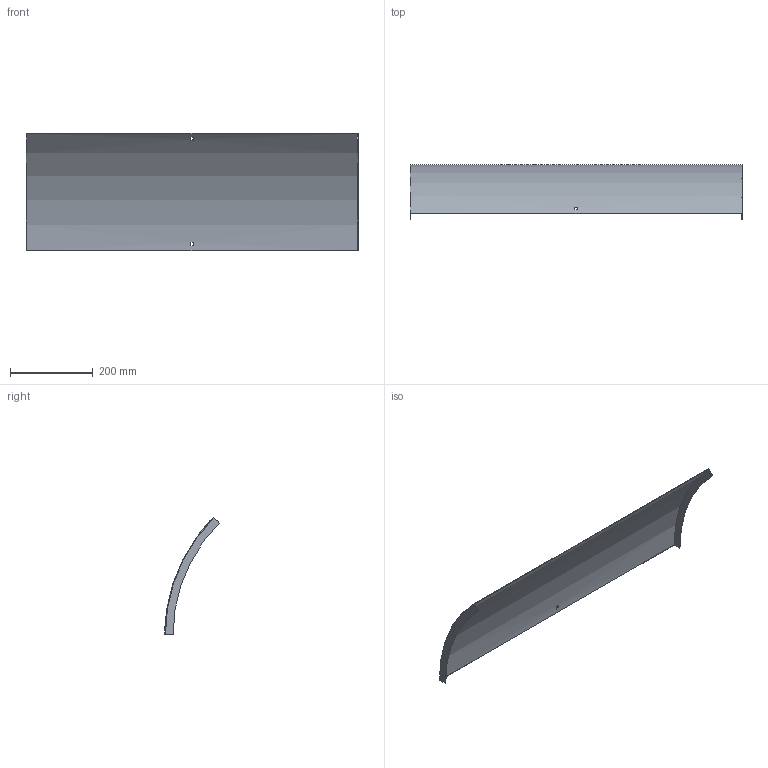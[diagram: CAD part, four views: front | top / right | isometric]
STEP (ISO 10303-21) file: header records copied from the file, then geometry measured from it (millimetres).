
FILE_DESCRIPTION (( 'STEP AP214' ), '1' );
FILE_NAME ('B2_34N3D800.step', '2025-02-21T10:36:45', ( '' ), ( '' ), 'SwSTEP 2.0', 'SolidWorks 2023', '' );
FILE_SCHEMA (( 'AUTOMOTIVE_DESIGN' ));
Length unit declared in the file: millimetre
Products named in the file (1): B2_34N3D800
Bounding box: 803 x 131.74 x 283.9 mm (x, y, z)
Volume: 395971.3 mm3; surface area: 531475.5 mm2
Topology: 1 solids, 1 shells, 18 faces, 48 edges, 32 vertices
Faces by surface type: plane 14, cylinder 4
Entity records: 599 total; most frequent: DIRECTION 102, CARTESIAN_POINT 99, ORIENTED_EDGE 96, EDGE_CURVE 48, AXIS2_PLACEMENT_3D 35, LINE 32, VERTEX_POINT 32, VECTOR 32
